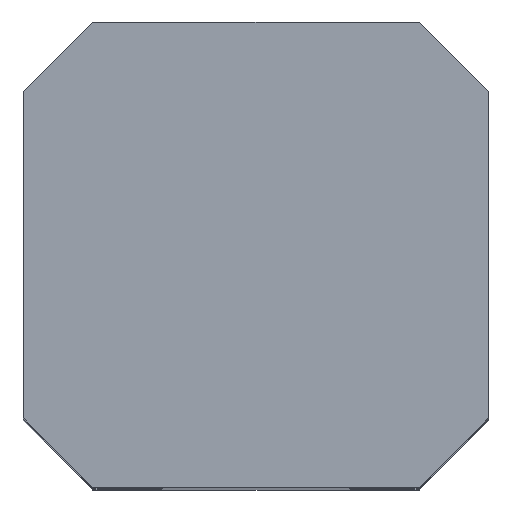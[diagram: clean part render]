
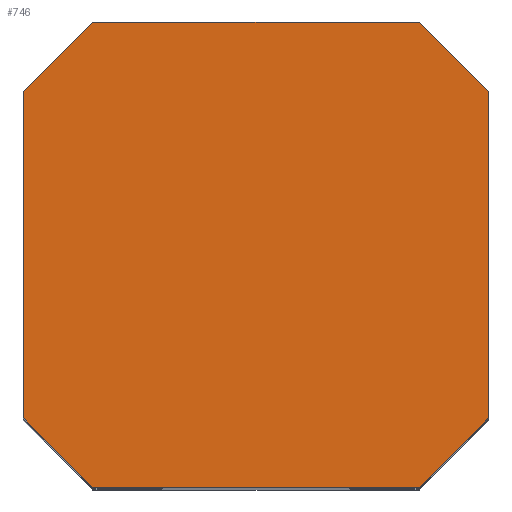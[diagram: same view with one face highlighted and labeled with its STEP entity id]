
A CAD part, top view. The second image highlights one B-rep face of the part: STEP entity #746.
In plain terms, the highlighted planar face has unit normal (0, 0, 1).
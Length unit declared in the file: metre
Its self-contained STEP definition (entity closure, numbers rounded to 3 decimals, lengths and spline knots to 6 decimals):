
#183=ORIENTED_EDGE('',*,*,#299,.T.);
#184=ORIENTED_EDGE('',*,*,#327,.T.);
#185=ORIENTED_EDGE('',*,*,#267,.F.);
#186=ORIENTED_EDGE('',*,*,#328,.T.);
#187=ORIENTED_EDGE('',*,*,#279,.F.);
#188=ORIENTED_EDGE('',*,*,#329,.T.);
#189=ORIENTED_EDGE('',*,*,#289,.T.);
#190=ORIENTED_EDGE('',*,*,#330,.T.);
#267=EDGE_CURVE('',#360,#361,#428,.T.);
#279=EDGE_CURVE('',#370,#371,#440,.T.);
#289=EDGE_CURVE('',#379,#378,#450,.T.);
#299=EDGE_CURVE('',#389,#388,#460,.T.);
#327=EDGE_CURVE('',#388,#361,#473,.T.);
#328=EDGE_CURVE('',#360,#371,#474,.F.);
#329=EDGE_CURVE('',#370,#379,#475,.T.);
#330=EDGE_CURVE('',#378,#389,#476,.F.);
#360=VERTEX_POINT('',#1144);
#361=VERTEX_POINT('',#1146);
#370=VERTEX_POINT('',#1167);
#371=VERTEX_POINT('',#1169);
#378=VERTEX_POINT('',#1186);
#379=VERTEX_POINT('',#1188);
#388=VERTEX_POINT('',#1207);
#389=VERTEX_POINT('',#1209);
#428=LINE('',#1145,#492);
#440=LINE('',#1168,#504);
#450=LINE('',#1187,#514);
#460=LINE('',#1208,#524);
#473=LINE('',#1270,#537);
#474=LINE('',#1271,#538);
#475=LINE('',#1272,#539);
#476=LINE('',#1273,#540);
#492=VECTOR('',#904,1.);
#504=VECTOR('',#918,1.);
#514=VECTOR('',#930,1.);
#524=VECTOR('',#942,1.);
#537=VECTOR('',#1025,1.);
#538=VECTOR('',#1026,1.);
#539=VECTOR('',#1027,1.);
#540=VECTOR('',#1028,1.);
#579=EDGE_LOOP('',(#183,#184,#185,#186,#187,#188,#189,#190));
#649=FACE_BOUND('',#579,.T.);
#703=PLANE('',#835);
#746=ADVANCED_FACE('',(#649),#703,.T.);
#835=AXIS2_PLACEMENT_3D('',#1269,#1023,#1024);
#904=DIRECTION('',(-1.,0.,0.));
#918=DIRECTION('',(0.,-1.,0.));
#930=DIRECTION('',(-1.,0.,0.));
#942=DIRECTION('',(0.,-1.,0.));
#1023=DIRECTION('',(0.,0.,1.));
#1024=DIRECTION('',(1.,0.,0.));
#1025=DIRECTION('',(0.707,-0.707,0.));
#1026=DIRECTION('',(-0.707,-0.707,0.));
#1027=DIRECTION('',(-0.707,0.707,0.));
#1028=DIRECTION('',(0.707,0.707,0.));
#1144=CARTESIAN_POINT('',(0.014,-0.02,0.107));
#1145=CARTESIAN_POINT('',(0.,-0.02,0.107));
#1146=CARTESIAN_POINT('',(-0.014,-0.02,0.107));
#1167=CARTESIAN_POINT('',(0.02,0.014,0.107));
#1168=CARTESIAN_POINT('',(0.02,0.,0.107));
#1169=CARTESIAN_POINT('',(0.02,-0.014,0.107));
#1186=CARTESIAN_POINT('',(-0.014,0.02,0.107));
#1187=CARTESIAN_POINT('',(0.,0.02,0.107));
#1188=CARTESIAN_POINT('',(0.014,0.02,0.107));
#1207=CARTESIAN_POINT('',(-0.02,-0.014,0.107));
#1208=CARTESIAN_POINT('',(-0.02,0.,0.107));
#1209=CARTESIAN_POINT('',(-0.02,0.014,0.107));
#1269=CARTESIAN_POINT('',(0.,0.,0.107));
#1270=CARTESIAN_POINT('',(-0.017,-0.017,0.107));
#1271=CARTESIAN_POINT('',(0.017,-0.017,0.107));
#1272=CARTESIAN_POINT('',(0.017,0.017,0.107));
#1273=CARTESIAN_POINT('',(-0.017,0.017,0.107));
